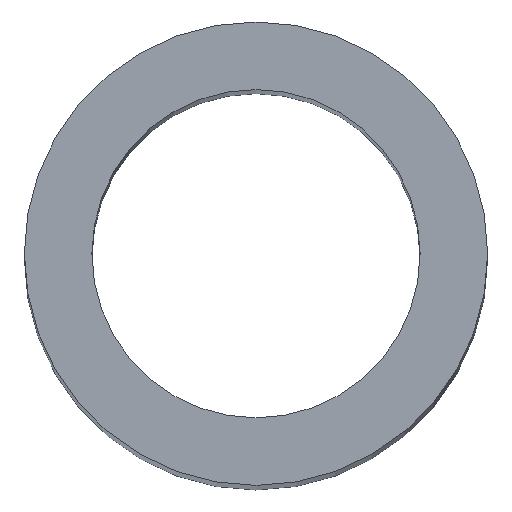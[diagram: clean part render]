
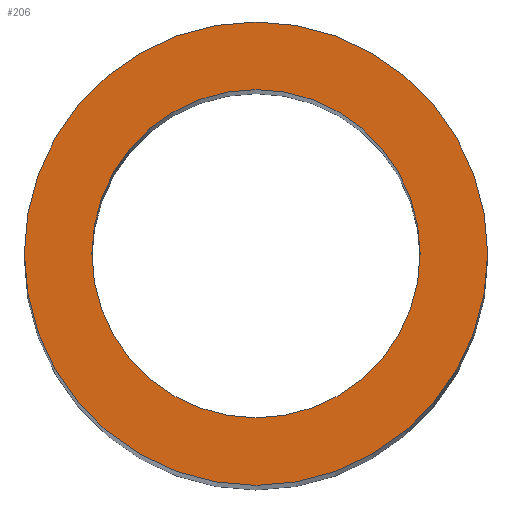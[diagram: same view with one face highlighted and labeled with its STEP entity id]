
A CAD part, top view. The second image highlights one B-rep face of the part: STEP entity #206.
In plain terms, the highlighted planar face has unit normal (0, 0, 1).
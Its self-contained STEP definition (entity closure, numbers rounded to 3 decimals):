
#20 = DIRECTION ( 'NONE',  ( 0., 1., 0. ) ) ;
#21 = DIRECTION ( 'NONE',  ( 0., 0., -1. ) ) ;
#22 = CARTESIAN_POINT ( 'NONE',  ( 0., 0., 0. ) ) ;
#23 = AXIS2_PLACEMENT_3D ( 'NONE', #22, #21, #20 ) ;
#24 = CIRCLE ( 'NONE', #23, 9.315 ) ;
#177 = ORIENTED_EDGE ( 'NONE', *, *, #202, .T. ) ;
#185 = VERTEX_POINT ( 'NONE', #319 ) ;
#198 = EDGE_LOOP ( 'NONE', ( #199, #177 ) ) ;
#199 = ORIENTED_EDGE ( 'NONE', *, *, #275, .T. ) ;
#201 = ORIENTED_EDGE ( 'NONE', *, *, #220, .T. ) ;
#202 = EDGE_CURVE ( 'NONE', #185, #274, #313, .T. ) ;
#203 = EDGE_LOOP ( 'NONE', ( #204, #201 ) ) ;
#204 = ORIENTED_EDGE ( 'NONE', *, *, #295, .T. ) ;
#206 = ADVANCED_FACE ( 'NONE', ( #308, #307 ), #314, .F. ) ;
#220 = EDGE_CURVE ( 'NONE', #281, #228, #343, .T. ) ;
#228 = VERTEX_POINT ( 'NONE', #301 ) ;
#274 = VERTEX_POINT ( 'NONE', #417 ) ;
#275 = EDGE_CURVE ( 'NONE', #274, #185, #412, .T. ) ;
#281 = VERTEX_POINT ( 'NONE', #403 ) ;
#295 = EDGE_CURVE ( 'NONE', #228, #281, #24, .T. ) ;
#301 = CARTESIAN_POINT ( 'NONE',  ( 0., 9.315, 0. ) ) ;
#307 = FACE_OUTER_BOUND ( 'NONE', #198, .T. ) ;
#308 = FACE_BOUND ( 'NONE', #203, .T. ) ;
#309 = DIRECTION ( 'NONE',  ( 1., 0., 0. ) ) ;
#310 = DIRECTION ( 'NONE',  ( 0., 0., 1. ) ) ;
#311 = CARTESIAN_POINT ( 'NONE',  ( 0., 0., 0. ) ) ;
#312 = AXIS2_PLACEMENT_3D ( 'NONE', #311, #310, #309 ) ;
#313 = CIRCLE ( 'NONE', #312, 13.15 ) ;
#314 = PLANE ( 'NONE',  #372 ) ;
#319 = CARTESIAN_POINT ( 'NONE',  ( -13.15, 0., 0. ) ) ;
#339 = DIRECTION ( 'NONE',  ( 0., 1., 0. ) ) ;
#340 = DIRECTION ( 'NONE',  ( 0., 0., -1. ) ) ;
#341 = CARTESIAN_POINT ( 'NONE',  ( 0., 0., 0. ) ) ;
#342 = AXIS2_PLACEMENT_3D ( 'NONE', #341, #340, #339 ) ;
#343 = CIRCLE ( 'NONE', #342, 9.315 ) ;
#368 = DIRECTION ( 'NONE',  ( -1., 0., 0. ) ) ;
#369 = DIRECTION ( 'NONE',  ( 0., 0., -1. ) ) ;
#370 = CARTESIAN_POINT ( 'NONE',  ( 0., 13.15, 0. ) ) ;
#372 = AXIS2_PLACEMENT_3D ( 'NONE', #370, #369, #368 ) ;
#403 = CARTESIAN_POINT ( 'NONE',  ( 0., -9.315, 0. ) ) ;
#408 = DIRECTION ( 'NONE',  ( 1., 0., 0. ) ) ;
#409 = DIRECTION ( 'NONE',  ( 0., 0., 1. ) ) ;
#410 = CARTESIAN_POINT ( 'NONE',  ( 0., 0., 0. ) ) ;
#411 = AXIS2_PLACEMENT_3D ( 'NONE', #410, #409, #408 ) ;
#412 = CIRCLE ( 'NONE', #411, 13.15 ) ;
#417 = CARTESIAN_POINT ( 'NONE',  ( 13.15, 0., 0. ) ) ;
